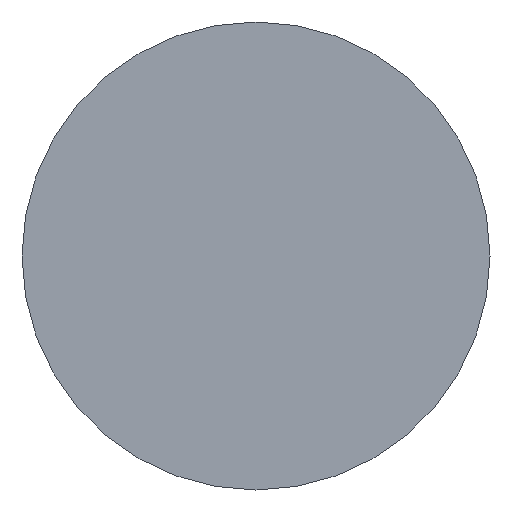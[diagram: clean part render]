
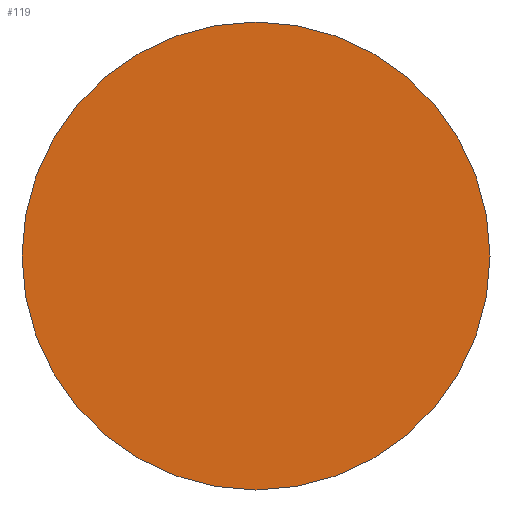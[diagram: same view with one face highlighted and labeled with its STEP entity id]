
A CAD part, front view. The second image highlights one B-rep face of the part: STEP entity #119.
In plain terms, the highlighted planar face has unit normal (0, -1, 0).
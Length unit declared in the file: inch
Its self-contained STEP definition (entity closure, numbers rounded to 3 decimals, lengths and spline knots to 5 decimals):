
#18=PLANE('',#152);
#30=FACE_OUTER_BOUND('',#37,.T.);
#37=EDGE_LOOP('',(#111,#112));
#50=CIRCLE('',#150,0.3935);
#51=CIRCLE('',#151,0.3935);
#63=VERTEX_POINT('',#251);
#64=VERTEX_POINT('',#252);
#78=EDGE_CURVE('',#63,#64,#50,.T.);
#79=EDGE_CURVE('',#64,#63,#51,.T.);
#111=ORIENTED_EDGE('',*,*,#78,.T.);
#112=ORIENTED_EDGE('',*,*,#79,.T.);
#119=ADVANCED_FACE('',(#30),#18,.T.);
#150=AXIS2_PLACEMENT_3D('',#253,#188,#189);
#151=AXIS2_PLACEMENT_3D('',#254,#190,#191);
#152=AXIS2_PLACEMENT_3D('',#256,#193,#194);
#188=DIRECTION('center_axis',(0.,-1.,0.));
#189=DIRECTION('ref_axis',(1.,0.,0.));
#190=DIRECTION('center_axis',(0.,-1.,0.));
#191=DIRECTION('ref_axis',(1.,0.,0.));
#193=DIRECTION('center_axis',(0.,-1.,0.));
#194=DIRECTION('ref_axis',(0.,0.,-1.));
#251=CARTESIAN_POINT('',(0.3935,0.,0.));
#252=CARTESIAN_POINT('',(-0.3935,0.,0.));
#253=CARTESIAN_POINT('Origin',(0.,0.,0.));
#254=CARTESIAN_POINT('Origin',(0.,0.,0.));
#256=CARTESIAN_POINT('Origin',(0.,0.,0.));
